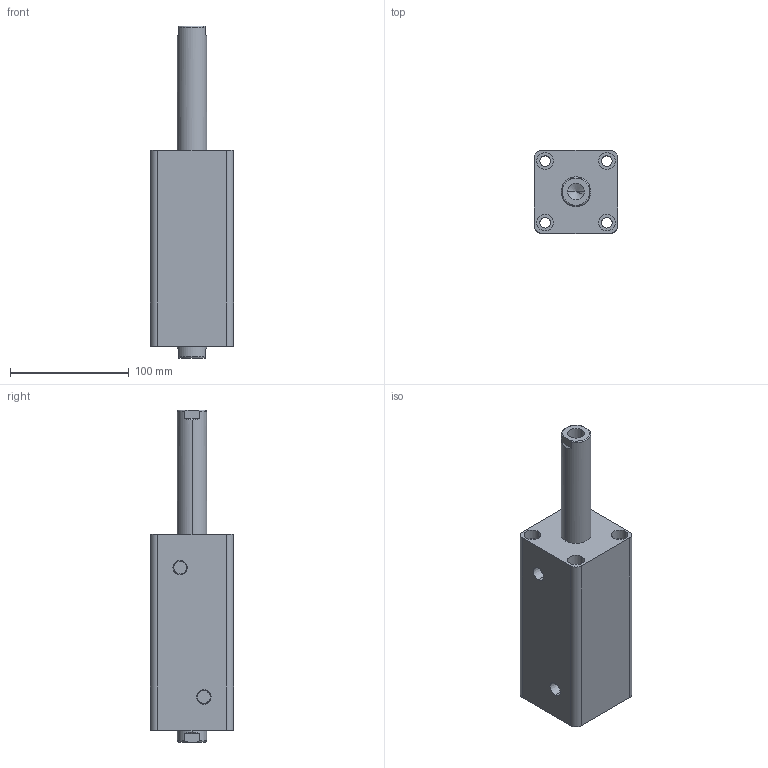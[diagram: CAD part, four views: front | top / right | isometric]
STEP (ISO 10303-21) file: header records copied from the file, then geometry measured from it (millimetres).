
FILE_DESCRIPTION (( 'STEP AP203' ), '1' );
FILE_NAME ('HTB-SW40-95N.STEP', '2019-10-07T09:13:27', ( '微软用户' ), ( '微软中国' ), 'SwSTEP 2.0', 'SolidWorks 2012', '' );
FILE_SCHEMA (( 'CONFIG_CONTROL_DESIGN' ));
Length unit declared in the file: millimetre
Products named in the file (3): HTB-SW40-95N; HTB-SW40-95N活塞杆; HTB-SW40-95掛极
Assembly tree (2 placements, depth 2):
  HTB-SW40-95N
    HTB-SW40-95掛极
    HTB-SW40-95N活塞杆
Bounding box: 70 x 70 x 280 mm (x, y, z)
Volume: 730229.3 mm3; surface area: 119716.5 mm2
Topology: 2 solids, 2 shells, 100 faces, 228 edges, 146 vertices
Faces by surface type: cylinder 48, plane 32, torus 12, cone 8
Entity records: 3237 total; most frequent: CARTESIAN_POINT 595, DIRECTION 542, ORIENTED_EDGE 448, AXIS2_PLACEMENT_3D 229, EDGE_CURVE 224, VERTEX_POINT 146, EDGE_LOOP 128, CIRCLE 124
